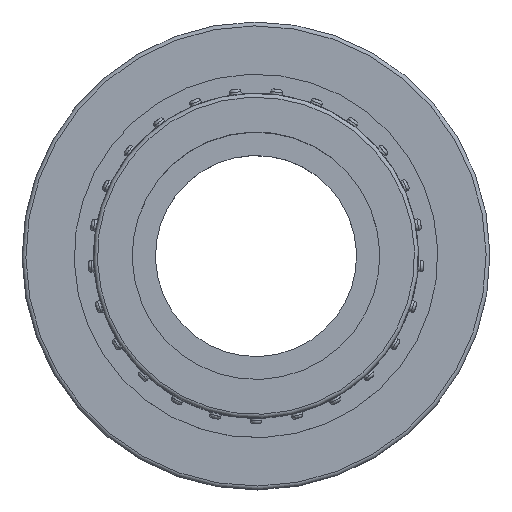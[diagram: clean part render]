
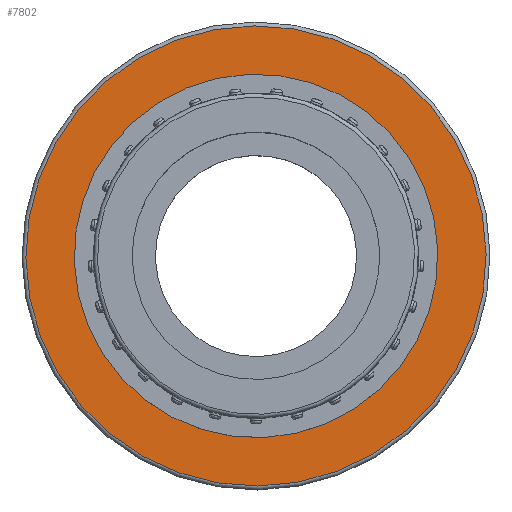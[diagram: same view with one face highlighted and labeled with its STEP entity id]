
A CAD part, top view. The second image highlights one B-rep face of the part: STEP entity #7802.
In plain terms, the highlighted planar face has unit normal (0, 0, 1).
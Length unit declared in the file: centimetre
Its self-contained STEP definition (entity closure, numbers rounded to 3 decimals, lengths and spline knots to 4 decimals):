
#1599=FACE_BOUND('',#2069,.T.);
#1626=FACE_OUTER_BOUND('',#2068,.T.);
#2068=EDGE_LOOP('',(#4872));
#2069=EDGE_LOOP('',(#4873));
#2537=CIRCLE('',#8249,2.975);
#2538=CIRCLE('',#8250,2.35);
#2977=VERTEX_POINT('',#11338);
#2978=VERTEX_POINT('',#11340);
#3717=EDGE_CURVE('',#2977,#2977,#2537,.T.);
#3718=EDGE_CURVE('',#2978,#2978,#2538,.T.);
#4872=ORIENTED_EDGE('',*,*,#3717,.F.);
#4873=ORIENTED_EDGE('',*,*,#3718,.F.);
#7182=PLANE('',#8248);
#7802=ADVANCED_FACE('',(#1626,#1599),#7182,.T.);
#8248=AXIS2_PLACEMENT_3D('',#11337,#9077,#9078);
#8249=AXIS2_PLACEMENT_3D('',#11339,#9079,#9080);
#8250=AXIS2_PLACEMENT_3D('',#11341,#9081,#9082);
#9077=DIRECTION('center_axis',(0.,0.,
1.));
#9078=DIRECTION('ref_axis',(-0.493,-0.87,0.));
#9079=DIRECTION('center_axis',(0.,0.,
-1.));
#9080=DIRECTION('ref_axis',(0.87,-0.493,0.));
#9081=DIRECTION('center_axis',(0.,0.,
1.));
#9082=DIRECTION('ref_axis',(0.537,-0.844,0.));
#11337=CARTESIAN_POINT('Origin',(-2.631,1.4928,1.57));
#11338=CARTESIAN_POINT('',(-2.5875,1.4681,1.57));
#11339=CARTESIAN_POINT('Origin',(0.,0.,
1.57));
#11340=CARTESIAN_POINT('',(-1.2611,1.9829,1.57));
#11341=CARTESIAN_POINT('Origin',(0.,0.,
1.57));
